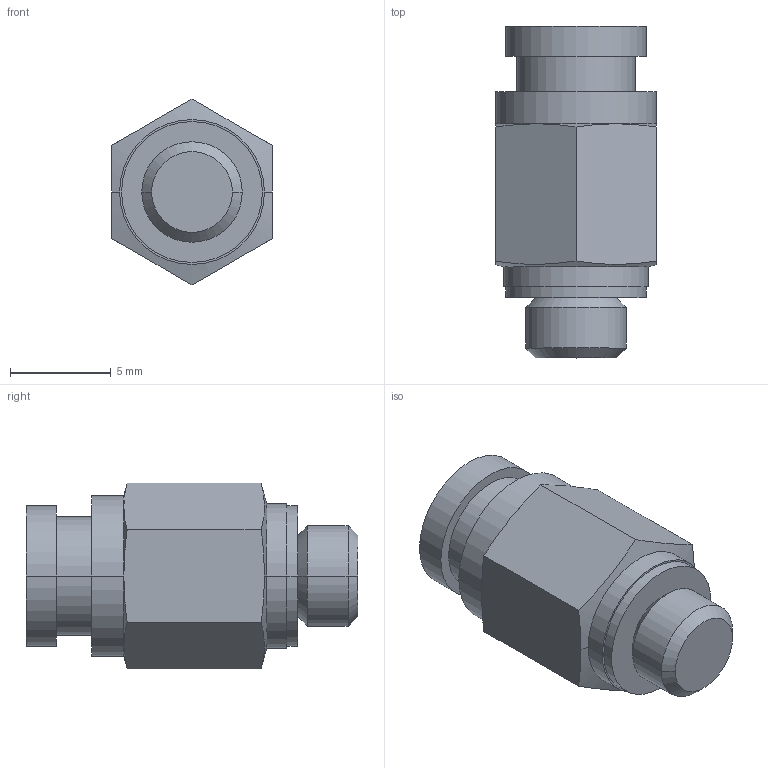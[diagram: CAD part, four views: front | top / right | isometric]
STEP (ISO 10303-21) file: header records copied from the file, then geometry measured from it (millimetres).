
FILE_DESCRIPTION( ( '' ), '1' );
FILE_NAME( 'G:/SMC狟婥/KQ2H23-M5A.stp', '2023-03-07T02:20:53', ( '' ), ( '' ), ' ', ' ', ' ' );
FILE_SCHEMA( ( 'CONFIG_CONTROL_DESIGN' ) );
Length unit declared in the file: millimetre
Products named in the file (1): 1
Bounding box: 8 x 16.5 x 9.24 mm (x, y, z)
Volume: 598.6 mm3; surface area: 636.8 mm2
Topology: 1 solids, 1 shells, 39 faces, 82 edges, 50 vertices
Faces by surface type: cylinder 14, plane 13, cone 12
Entity records: 1064 total; most frequent: CARTESIAN_POINT 212, DIRECTION 178, ORIENTED_EDGE 164, EDGE_CURVE 82, AXIS2_PLACEMENT_3D 76, VERTEX_POINT 50, EDGE_LOOP 44, ADVANCED_FACE 39
